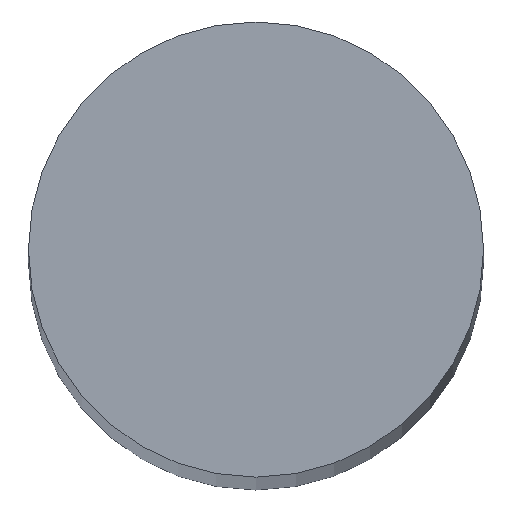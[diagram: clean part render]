
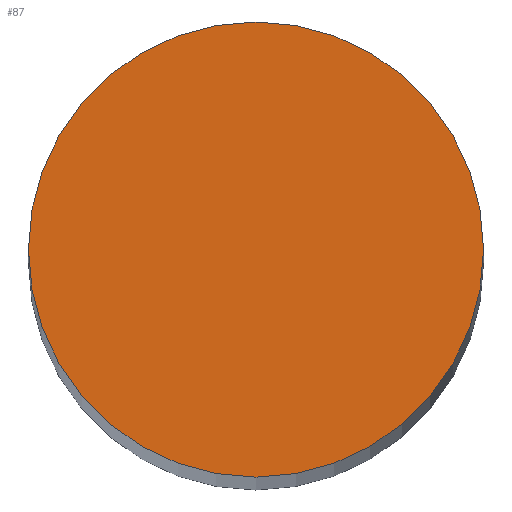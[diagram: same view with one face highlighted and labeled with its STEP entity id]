
A CAD part, top view. The second image highlights one B-rep face of the part: STEP entity #87.
In plain terms, the highlighted planar face has unit normal (0, 0, 1).
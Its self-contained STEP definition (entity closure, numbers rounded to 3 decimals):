
#8 = CARTESIAN_POINT ( 'NONE',  ( 0., 0., 97.5 ) ) ;
#10 = DIRECTION ( 'NONE',  ( 1., 0., 0. ) ) ;
#25 = EDGE_LOOP ( 'NONE', ( #30, #29 ) ) ;
#29 = ORIENTED_EDGE ( 'NONE', *, *, #63, .T. ) ;
#30 = ORIENTED_EDGE ( 'NONE', *, *, #76, .T. ) ;
#46 = CIRCLE ( 'NONE', #71, 6. ) ;
#48 = FACE_OUTER_BOUND ( 'NONE', #25, .T. ) ;
#52 = CIRCLE ( 'NONE', #80, 6. ) ;
#63 = EDGE_CURVE ( 'NONE', #91, #89, #46, .T. ) ;
#71 = AXIS2_PLACEMENT_3D ( 'NONE', #90, #92, #10 ) ;
#75 = AXIS2_PLACEMENT_3D ( 'NONE', #107, #118, #119 ) ;
#76 = EDGE_CURVE ( 'NONE', #89, #91, #52, .T. ) ;
#80 = AXIS2_PLACEMENT_3D ( 'NONE', #8, #104, #105 ) ;
#87 = ADVANCED_FACE ( 'NONE', ( #48 ), #102, .T. ) ;
#89 = VERTEX_POINT ( 'NONE', #116 ) ;
#90 = CARTESIAN_POINT ( 'NONE',  ( 0., 0., 97.5 ) ) ;
#91 = VERTEX_POINT ( 'NONE', #120 ) ;
#92 = DIRECTION ( 'NONE',  ( 0., 0., 1. ) ) ;
#102 = PLANE ( 'NONE',  #75 ) ;
#104 = DIRECTION ( 'NONE',  ( 0., 0., 1. ) ) ;
#105 = DIRECTION ( 'NONE',  ( 1., 0., 0. ) ) ;
#107 = CARTESIAN_POINT ( 'NONE',  ( 0., 0., 97.5 ) ) ;
#116 = CARTESIAN_POINT ( 'NONE',  ( -6., 0., 97.5 ) ) ;
#118 = DIRECTION ( 'NONE',  ( 0., 0., 1. ) ) ;
#119 = DIRECTION ( 'NONE',  ( 1., 0., 0. ) ) ;
#120 = CARTESIAN_POINT ( 'NONE',  ( 6., 0., 97.5 ) ) ;
